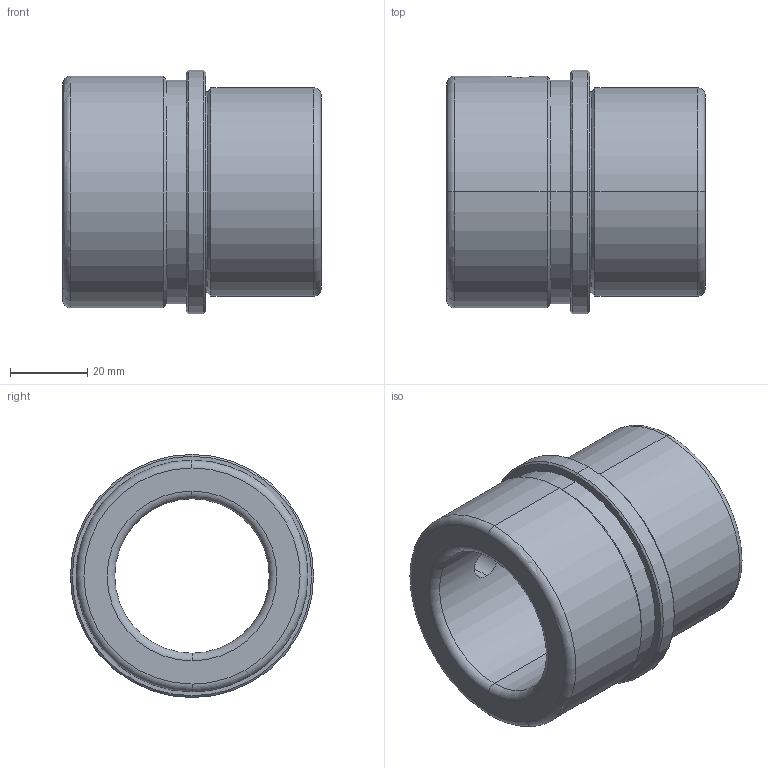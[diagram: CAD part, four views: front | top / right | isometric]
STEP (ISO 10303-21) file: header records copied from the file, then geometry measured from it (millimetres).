
FILE_DESCRIPTION(('CATIA V5 STEP Exchange'),'2;1');
FILE_NAME('C:\Users\Utente\Desktop\IO LAVORO\3D X SITO CF\X SITO\FAMO\FAMO-SF1-C40 x 67.stp','2021-01-06T17:08:59+00:00',('none'),('none'),'CATIA Version 5 Release 20 GA (IN-10)','CATIA V5 STEP AP203','none');
FILE_SCHEMA(('CONFIG_CONTROL_DESIGN'));
Length unit declared in the file: millimetre
Products named in the file (1): FAMO-SF1-C40 x 67
Bounding box: 67 x 63 x 63 mm (x, y, z)
Volume: 87953.4 mm3; surface area: 24459.5 mm2
Topology: 1 solids, 1 shells, 37 faces, 126 edges, 94 vertices
Faces by surface type: cylinder 14, cone 10, torus 8, plane 5
Entity records: 1664 total; most frequent: CARTESIAN_POINT 532, ORIENTED_EDGE 252, DIRECTION 180, EDGE_CURVE 126, AXIS2_PLACEMENT_3D 120, VERTEX_POINT 94, CIRCLE 82, EDGE_LOOP 44
